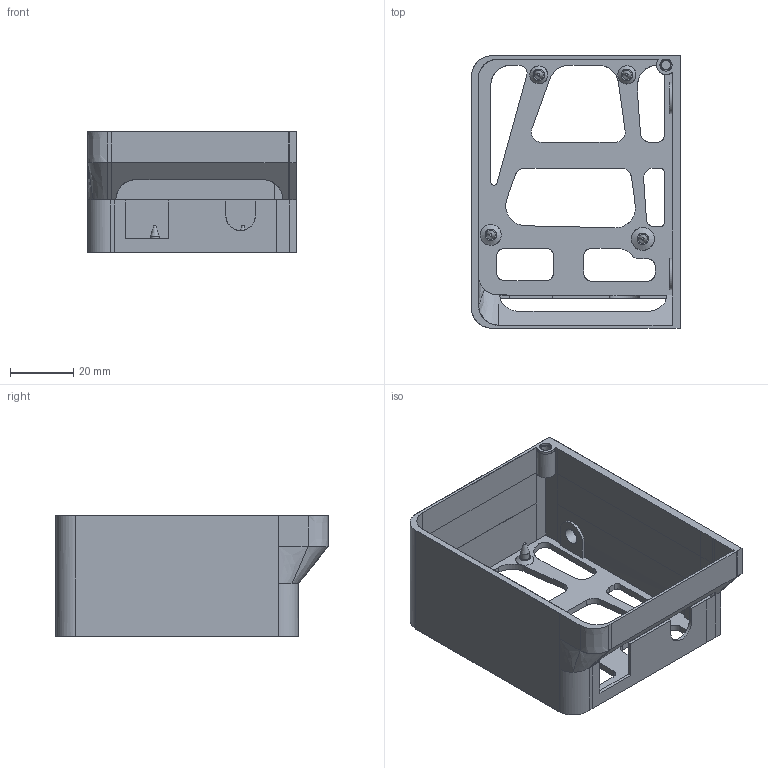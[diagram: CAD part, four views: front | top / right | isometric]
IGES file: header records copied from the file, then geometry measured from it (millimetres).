
Start section: SolidWorks IGES file using analytic representation for surfaces SolidWorks IGES FILE using analytic representation for surfaces SolidWorks IGES file using analytic representation for surfacesTrimmer 3296..SLDPRT - CatalogComponentType Trimmer 3296..SLDPRT - PrototypeComponentType Trimmer 3296..SLDPRT - PrototypeComponentType SolidWorks IGES FILE using analytic representation for surfaces SolidWork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
Global section: file name: C:\Users\ccw\Desktop\arduino_box_3_level.igs; native system: Rhinoceros ( Oct 24 2012 ); preprocessor: Trout Lake IGES 012 Oct 24 2012; author: chris kelley; organization: ca-cycleworks.com; date: 121121.194739; units: inch
Bounding box: 66.31 x 86.41 x 38.31 mm (x, y, z)
Surface area: 27346.9 mm2 (no closed solid volume)
Topology: 0 solids, 0 shells, 189 faces, 1203 edges, 1184 vertices
Faces by surface type: bspline 189
